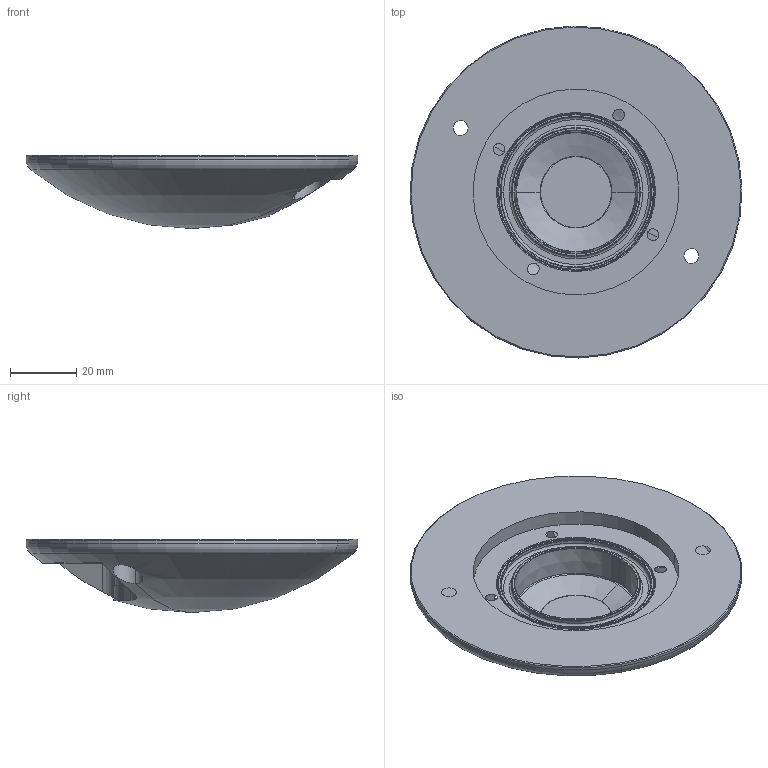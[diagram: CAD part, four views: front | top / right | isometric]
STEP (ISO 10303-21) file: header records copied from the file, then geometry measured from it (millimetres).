
FILE_DESCRIPTION((''),'2;1');
FILE_NAME('C180_SW0001','2025-06-13T08:48:08',('Piccioli'),(''),'CREO PARAMETRIC BY PTC INC, 2020354','CREO PARAMETRIC BY PTC INC, 2020354','');
FILE_SCHEMA(('CONFIG_CONTROL_DESIGN'));
Length unit declared in the file: millimetre
Products named in the file (1): C180_SW0001
Bounding box: 99.98 x 99.98 x 22.04 mm (x, y, z)
Surface area: 22153.2 mm2 (no closed solid volume)
Topology: 0 solids, 7 shells, 64 faces, 192 edges, 127 vertices
Faces by surface type: torus 22, cylinder 16, cone 12, plane 12, sphere 2
Entity records: 2611 total; most frequent: CARTESIAN_POINT 791, DIRECTION 436, ORIENTED_EDGE 310, AXIS2_PLACEMENT_3D 198, EDGE_CURVE 190, CIRCLE 134, VERTEX_POINT 127, EDGE_LOOP 77
